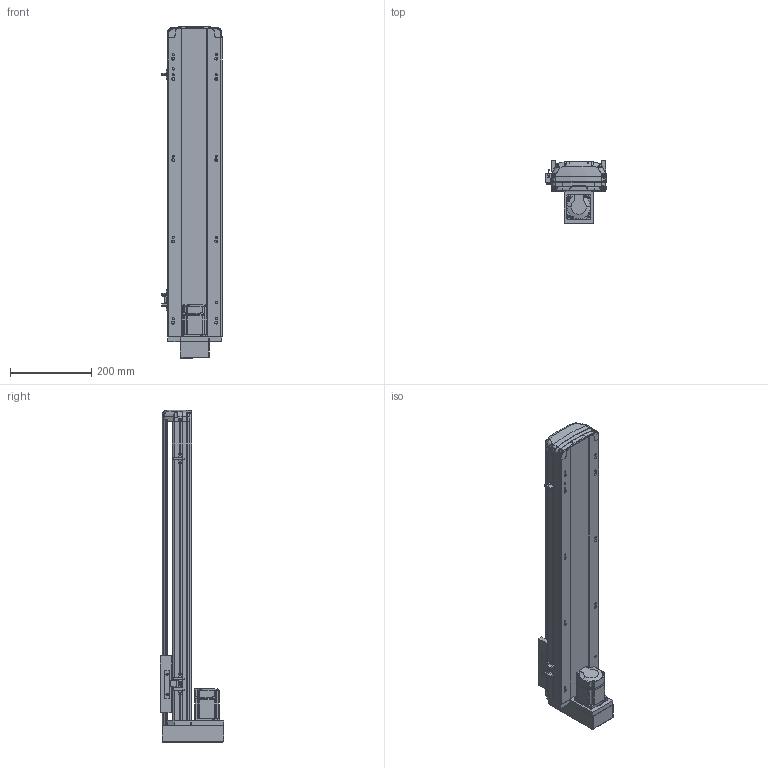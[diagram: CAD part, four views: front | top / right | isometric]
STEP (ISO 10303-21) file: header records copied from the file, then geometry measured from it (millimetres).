
FILE_DESCRIPTION (( 'STEP AP214' ), '1' );
FILE_NAME ('RTH14-XX-550-M-M20-C4.STEP', '2025-10-25T02:49:21', ( 'Microsoft' ), ( 'Microsoft' ), 'SwSTEP 2.0', 'SolidWorks 2018', '' );
FILE_SCHEMA (( 'AUTOMOTIVE_DESIGN' ));
Length unit declared in the file: millimetre
Products named in the file (10): RTH14-XX-550-M-M20-C4; N_RTH14-M-011P菁釱^RTH14-XX-XX-M-M20-C4; N_RTH13-M-008萇儂啣狟殏^RTH14-XX-XX-M-M20-C4; N_RTH13-M-018裔赽^RTH14-XX-XX-M-M20-C4; N_RTH14-GY-001P^RTH14-XX-XX-M-M20-C4; N_RTH14-M-007P奻裔^RTH14-XX-XX-M-M20-C4; N_MSMD022P1AA_200W^RTH14-XX-XX-M-M20-C4; N_RTH14-R-004-SFSR16賑釱^RTH14-XX-XX-M-M20-C4; N_OMRON EE-SX672 传感器^RTH14-XX-XX-M-M20-C4; N_RTH13-L-012感应片（外置）^RTH14-XX-XX-M-M20-C4
Assembly tree (11 placements, depth 2):
  RTH14-XX-550-M-M20-C4
    N_RTH14-M-011P菁釱^RTH14-XX-XX-M-M20-C4
    N_RTH14-M-007P奻裔^RTH14-XX-XX-M-M20-C4
    N_MSMD022P1AA_200W^RTH14-XX-XX-M-M20-C4
    N_RTH13-M-008萇儂啣狟殏^RTH14-XX-XX-M-M20-C4
    N_RTH13-M-018裔赽^RTH14-XX-XX-M-M20-C4
    N_RTH13-L-012感应片（外置）^RTH14-XX-XX-M-M20-C4
    N_OMRON EE-SX672 传感器^RTH14-XX-XX-M-M20-C4  x3
    N_RTH14-R-004-SFSR16賑釱^RTH14-XX-XX-M-M20-C4
    N_RTH14-GY-001P^RTH14-XX-XX-M-M20-C4
Bounding box: 148.5 x 156.5 x 817.37 mm (x, y, z)
Volume: 3730255.8 mm3; surface area: 864274.2 mm2
Topology: 11 solids, 11 shells, 1875 faces, 5240 edges, 3432 vertices
Faces by surface type: plane 995, cylinder 486, bspline 345, cone 45, torus 4
Entity records: 57214 total; most frequent: CARTESIAN_POINT 23039, ORIENTED_EDGE 7548, DIRECTION 6055, EDGE_CURVE 3774, VERTEX_POINT 2468, LINE 2173, VECTOR 2173, AXIS2_PLACEMENT_3D 1941
